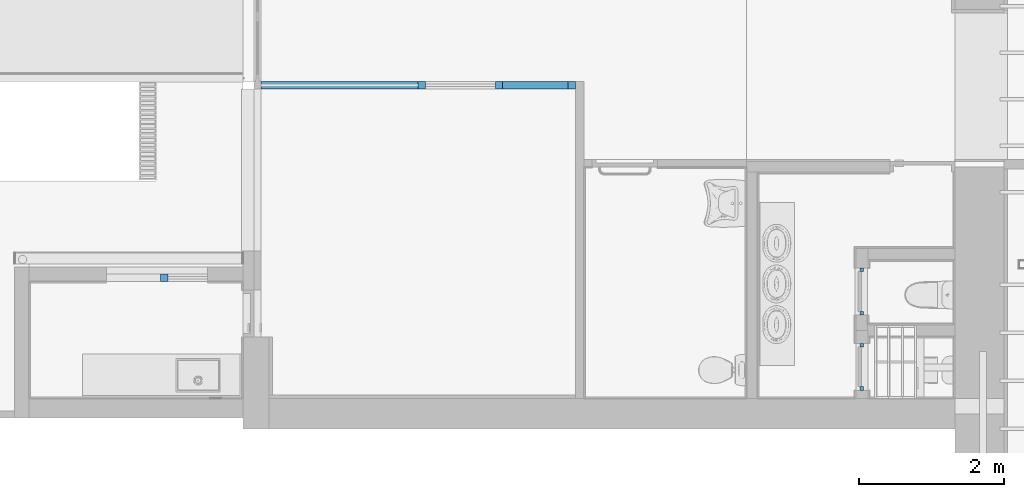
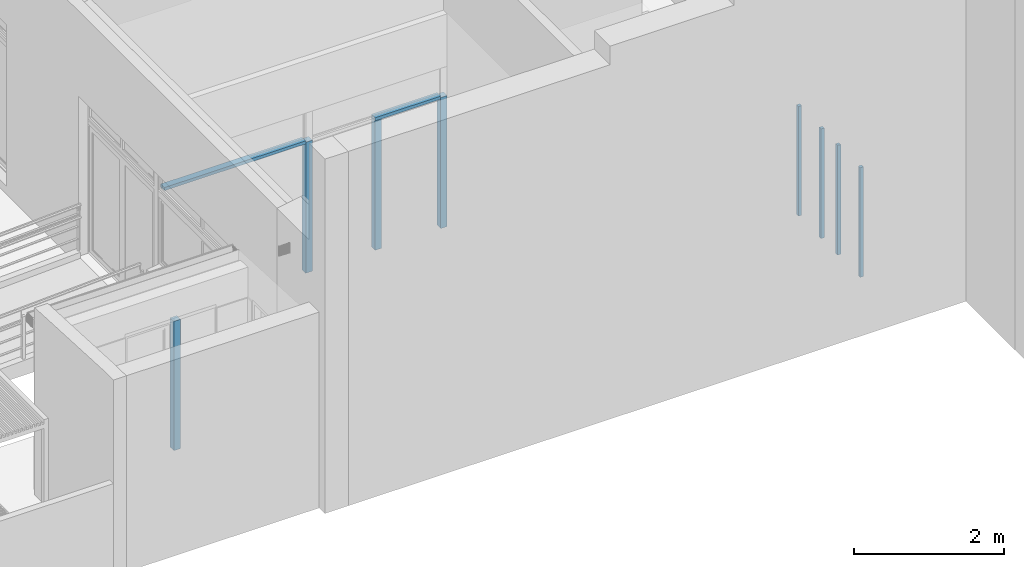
# One storey, part 15 of 75: 10 members, 4 elements without a shape of their own.
"""IFC2X3 building model written with IfcOpenShell, lengths in metres."""

from ifc_helpers import new_model, entity, si_unit, converted_unit, derived_unit, direction, frame, origin, origin_2d_with_axis, place, context, subcontext, project, spatial, rectangle, extrude, source, transform, mapped, material, type_object, type_shapes, element, aggregate, save


model = new_model("IFC2X3")

# Units and contexts
model_context = context("Model", 3, precision=1e-05, world=origin(), true_north=direction((6.12303176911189e-17, 1.0)))
body_context = subcontext(model_context, "Body", "Model", "MODEL_VIEW")
ifc_project = project(units=[si_unit("LENGTHUNIT", "METRE"), si_unit("AREAUNIT", "SQUARE_METRE"), si_unit("VOLUMEUNIT", "CUBIC_METRE"), converted_unit("PLANEANGLEUNIT", "DEGREE", entity("IfcRatioMeasure", 0.0174532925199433), si_unit("PLANEANGLEUNIT", "RADIAN"), dimensions=[0, 0, 0, 0, 0, 0, 0]), si_unit("MASSUNIT", "GRAM", prefix="KILO"), derived_unit("MASSDENSITYUNIT", [(si_unit("MASSUNIT", "GRAM", prefix="KILO"), 1), (si_unit("LENGTHUNIT", "METRE"), -3)]), derived_unit("MOMENTOFINERTIAUNIT", [(si_unit("LENGTHUNIT", "METRE"), 4)]), si_unit("TIMEUNIT", "SECOND"), si_unit("FREQUENCYUNIT", "HERTZ"), si_unit("THERMODYNAMICTEMPERATUREUNIT", "DEGREE_CELSIUS"), derived_unit("THERMALTRANSMITTANCEUNIT", [(si_unit("MASSUNIT", "GRAM", prefix="KILO"), 1), (si_unit("THERMODYNAMICTEMPERATUREUNIT", "KELVIN"), -1), (si_unit("TIMEUNIT", "SECOND"), -3)]), derived_unit("VOLUMETRICFLOWRATEUNIT", [(si_unit("LENGTHUNIT", "METRE"), 3), (si_unit("TIMEUNIT", "SECOND"), -1)]), si_unit("ELECTRICCURRENTUNIT", "AMPERE"), si_unit("ELECTRICVOLTAGEUNIT", "VOLT"), si_unit("POWERUNIT", "WATT"), si_unit("FORCEUNIT", "NEWTON", prefix="KILO"), si_unit("ILLUMINANCEUNIT", "LUX"), si_unit("LUMINOUSFLUXUNIT", "LUMEN"), si_unit("LUMINOUSINTENSITYUNIT", "CANDELA"), derived_unit("USERDEFINED", [(si_unit("MASSUNIT", "GRAM", prefix="KILO"), -1), (si_unit("LENGTHUNIT", "METRE"), -2), (si_unit("TIMEUNIT", "SECOND"), 3), (si_unit("LUMINOUSFLUXUNIT", "LUMEN"), 1)]), derived_unit("LINEARVELOCITYUNIT", [(si_unit("LENGTHUNIT", "METRE"), 1), (si_unit("TIMEUNIT", "SECOND"), -1)]), si_unit("PRESSUREUNIT", "PASCAL"), derived_unit("USERDEFINED", [(si_unit("LENGTHUNIT", "METRE"), -2), (si_unit("MASSUNIT", "GRAM", prefix="KILO"), 1), (si_unit("TIMEUNIT", "SECOND"), -2)]), derived_unit("LINEARFORCEUNIT", [(si_unit("MASSUNIT", "GRAM", prefix="KILO"), 1), (si_unit("LENGTHUNIT", "METRE"), 1), (si_unit("TIMEUNIT", "SECOND"), -2), (si_unit("LENGTHUNIT", "METRE"), -1)]), derived_unit("PLANARFORCEUNIT", [(si_unit("MASSUNIT", "GRAM", prefix="KILO"), 1), (si_unit("LENGTHUNIT", "METRE"), 1), (si_unit("TIMEUNIT", "SECOND"), -2), (si_unit("LENGTHUNIT", "METRE"), -2)])], contexts=[model_context])

# Site, building, storey
site_placement = place(None, origin())
site = spatial("IfcSite", under=ifc_project, at=site_placement, Name="Superficie", CompositionType="ELEMENT")
building_placement = place(site_placement, origin())
building = spatial("IfcBuilding", under=site, at=building_placement, Name="Telegestiones", CompositionType="ELEMENT")
storey_placement = place(building_placement, origin())
storey = spatial("IfcBuildingStorey", under=building, at=storey_placement, Name="Nivel 0_NPT", CompositionType="ELEMENT", Elevation=0.0)

# Curtain wall, member
curtain_wall_type_1 = type_object("IfcCurtainWallType", PredefinedType="NOTDEFINED")
curtain_wall_1_placement = place(storey_placement, origin())
curtain_wall_1 = element("IfcCurtainWall", 1, at=curtain_wall_1_placement, inside=storey, type_object=curtain_wall_type_1)
ifc_material = material(Name="Aluminio")
member_type_1 = type_object("IfcMemberType", Name="Montante rectangular:10x10", PredefinedType="MULLION", material=ifc_material)
shared_shape_1 = source(origin(), body_context, "Body", "SweptSolid", [
    extrude(rectangle(XDim=0.1, YDim=0.1, at=origin_2d_with_axis()), frame((0.05, 0.0, -2.1), z_axis=(0.0, 0.0, 1.0), x_axis=(0.0, -1.0, 0.0)), (0.0, 0.0, 1.0), 2.1),
])
type_shapes(member_type_1, [shared_shape_1])
member_1_placement = place(curtain_wall_1_placement, frame((-5.6251873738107, -2.41639277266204, -0.02), z_axis=(0.0, 0.0, -1.0), x_axis=(1.0, 0.0, 0.0)))
member_1 = element("IfcMember", 2, at=member_1_placement, type_object=member_type_1, Name="Montante rectangular:10x10", ObjectType="Montante rectangular:10x10", context=body_context, shape_type="MappedRepresentation", body=[
    mapped(shared_shape_1, transform((0.0, 0.0, 0.0), scale=1.0)),
])
aggregate(curtain_wall_1, [member_1])

# Curtain wall, members
curtain_wall_type_2 = type_object("IfcCurtainWallType", PredefinedType="NOTDEFINED")
curtain_wall_2_placement = place(storey_placement, origin())
curtain_wall_2 = element("IfcCurtainWall", 3, at=curtain_wall_2_placement, inside=storey, type_object=curtain_wall_type_2)
member_2_placement = place(curtain_wall_2_placement, frame((-0.998349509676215, 0.244063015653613, 0.0), z_axis=(0.0, 0.0, -1.0), x_axis=(1.0, 0.0, 0.0)))
member_2 = element("IfcMember", 4, at=member_2_placement, type_object=member_type_1, Name="Montante rectangular:10x10", ObjectType="Montante rectangular:10x10", context=body_context, shape_type="MappedRepresentation", body=[
    mapped(shared_shape_1, transform((0.0, 0.0, 0.0), scale=1.0)),
])
member_type_2 = type_object("IfcMemberType", Name="Montante rectangular:10x10", PredefinedType="MULLION", material=ifc_material)
shared_shape_2 = source(origin(), body_context, "Body", "SweptSolid", [
    extrude(rectangle(XDim=0.1, YDim=0.1, at=origin_2d_with_axis()), frame((-0.05, 0.0, -2.125), z_axis=(0.0, 0.0, 1.0), x_axis=(0.0, -1.0, 0.0)), (0.0, 0.0, 1.0), 2.125),
])
type_shapes(member_type_2, [shared_shape_2])
member_3_placement = place(curtain_wall_2_placement, frame((0.106652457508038, 0.24406301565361, 0.0), z_axis=(0.0, 0.0, -1.0), x_axis=(1.0, 0.0, 0.0)))
member_3 = element("IfcMember", 5, at=member_3_placement, type_object=member_type_2, Name="Montante rectangular:10x10", ObjectType="Montante rectangular:10x10", context=body_context, shape_type="MappedRepresentation", body=[
    mapped(shared_shape_2, transform((0.0, 0.0, 0.0), scale=1.0)),
])
member_type_3 = type_object("IfcMemberType", Name="Montante rectangular:5x10", PredefinedType="MULLION", material=ifc_material)
shared_shape_3 = source(origin(), body_context, "Body", "SweptSolid", [
    extrude(rectangle(XDim=0.1, YDim=0.05, at=origin_2d_with_axis()), frame((0.0, 0.0, -2.17091991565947), z_axis=(0.0, 0.0, 1.0), x_axis=(0.0, -1.0, 0.0)), (0.0, 0.0, 1.0), 2.17091991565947),
])
type_shapes(member_type_3, [shared_shape_3])
member_4_placement = place(curtain_wall_2_placement, frame((-2.06426745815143, 0.244063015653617, 2.125), z_axis=(1.0, 0.0, 0.0), x_axis=(0.0, 0.0, 1.0)))
member_4 = element("IfcMember", 6, at=member_4_placement, type_object=member_type_3, Name="Montante rectangular:5x10", ObjectType="Montante rectangular:5x10", context=body_context, shape_type="MappedRepresentation", body=[
    mapped(shared_shape_3, transform((0.0, 0.0, 0.0), scale=1.0)),
])
member_type_4 = type_object("IfcMemberType", Name="Montante rectangular:5x10", PredefinedType="MULLION", material=ifc_material)
shared_shape_4 = source(origin(), body_context, "Body", "SweptSolid", [
    extrude(rectangle(XDim=0.1, YDim=0.05, at=origin_2d_with_axis()), frame((0.0, 0.0, -1.00500196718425), z_axis=(0.0, 0.0, 1.0), x_axis=(0.0, -1.0, 0.0)), (0.0, 0.0, 1.0), 1.00500196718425),
])
type_shapes(member_type_4, [shared_shape_4])
member_5_placement = place(curtain_wall_2_placement, frame((0.00665245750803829, 0.24406301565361, 2.125), z_axis=(1.0, 0.0, 0.0), x_axis=(0.0, 0.0, 1.0)))
member_5 = element("IfcMember", 7, at=member_5_placement, type_object=member_type_4, Name="Montante rectangular:5x10", ObjectType="Montante rectangular:5x10", context=body_context, shape_type="MappedRepresentation", body=[
    mapped(shared_shape_4, transform((0.0, 0.0, 0.0), scale=1.0)),
])
member_type_5 = type_object("IfcMemberType", Name="Montante rectangular:10x10", PredefinedType="MULLION", material=ifc_material)
shared_shape_5 = source(origin(), body_context, "Body", "SweptSolid", [
    extrude(rectangle(XDim=0.1, YDim=0.1, at=origin_2d_with_axis()), frame((0.05, 0.0, -2.125), z_axis=(0.0, 0.0, 1.0), x_axis=(0.0, -1.0, 0.0)), (0.0, 0.0, 1.0), 2.125),
])
type_shapes(member_type_5, [shared_shape_5])
member_6_placement = place(curtain_wall_2_placement, frame((-2.06426745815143, 0.244063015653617, 0.0), z_axis=(0.0, 0.0, -1.0), x_axis=(1.0, 0.0, 0.0)))
member_6 = element("IfcMember", 8, at=member_6_placement, type_object=member_type_5, Name="Montante rectangular:10x10", ObjectType="Montante rectangular:10x10", context=body_context, shape_type="MappedRepresentation", body=[
    mapped(shared_shape_5, transform((0.0, 0.0, 0.0), scale=1.0)),
])
aggregate(curtain_wall_2, [member_2, member_3, member_4, member_5, member_6])

# Curtain wall, member
curtain_wall_type_3 = type_object("IfcCurtainWallType", PredefinedType="NOTDEFINED")
curtain_wall_3_placement = place(storey_placement, origin())
curtain_wall_3 = element("IfcCurtainWall", 9, at=curtain_wall_3_placement, inside=storey, type_object=curtain_wall_type_3)
member_type_6 = type_object("IfcMemberType", Name="Montante rectangular:5x5", PredefinedType="MULLION", material=ifc_material)
shared_shape_6 = source(origin(), body_context, "Body", "SweptSolid", [
    extrude(rectangle(XDim=0.05, YDim=0.05, at=origin_2d_with_axis()), frame((-0.025, 0.0, -1.78), z_axis=(0.0, 0.0, 1.0), x_axis=(0.0, -1.0, 0.0)), (0.0, 0.0, 1.0), 1.78),
])
type_shapes(member_type_6, [shared_shape_6])
member_7_placement = place(curtain_wall_3_placement, frame((4.06481262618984, -2.93139277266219, 2.1), z_axis=(0.0, 0.0, 1.0), x_axis=(0.0, -1.0, 0.0)))
member_7 = element("IfcMember", 10, at=member_7_placement, type_object=member_type_6, Name="Montante rectangular:5x5", ObjectType="Montante rectangular:5x5", context=body_context, shape_type="MappedRepresentation", body=[
    mapped(shared_shape_6, transform((0.0, 0.0, 0.0), scale=1.0)),
])

curtain_wall_4_placement = place(storey_placement, origin())
curtain_wall_4 = element("IfcCurtainWall", 11, at=curtain_wall_4_placement, inside=storey, type_object=curtain_wall_type_3)
member_8_placement = place(curtain_wall_4_placement, frame((4.06481262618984, -3.97136539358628, 2.1), z_axis=(0.0, 0.0, 1.0), x_axis=(0.0, -1.0, 0.0)))
member_8 = element("IfcMember", 12, at=member_8_placement, type_object=member_type_6, Name="Montante rectangular:5x5", ObjectType="Montante rectangular:5x5", context=body_context, shape_type="MappedRepresentation", body=[
    mapped(shared_shape_6, transform((0.0, 0.0, 0.0), scale=1.0)),
])

# Member
member_type_7 = type_object("IfcMemberType", Name="Montante rectangular:5x5", PredefinedType="MULLION", material=ifc_material)
shared_shape_7 = source(origin(), body_context, "Body", "SweptSolid", [
    extrude(rectangle(XDim=0.05, YDim=0.05, at=origin_2d_with_axis()), frame((-0.025, 0.0, -1.78), z_axis=(0.0, 0.0, 1.0), x_axis=(0.0, -1.0, 0.0)), (0.0, 0.0, 1.0), 1.78),
])
type_shapes(member_type_7, [shared_shape_7])
member_9_placement = place(curtain_wall_3_placement, frame((4.06481262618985, -2.28139277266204, 0.32), z_axis=(0.0, 0.0, -1.0), x_axis=(0.0, 1.0, 0.0)))
member_9 = element("IfcMember", 13, at=member_9_placement, type_object=member_type_7, Name="Montante rectangular:5x5", ObjectType="Montante rectangular:5x5", context=body_context, shape_type="MappedRepresentation", body=[
    mapped(shared_shape_7, transform((0.0, 0.0, 0.0), scale=1.0)),
])

aggregate(curtain_wall_3, [member_7, member_9])

member_10_placement = place(curtain_wall_4_placement, frame((4.06481262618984, -3.32139277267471, 0.32), z_axis=(0.0, 0.0, -1.0), x_axis=(0.0, 1.0, 0.0)))
member_10 = element("IfcMember", 14, at=member_10_placement, type_object=member_type_7, Name="Montante rectangular:5x5", ObjectType="Montante rectangular:5x5", context=body_context, shape_type="MappedRepresentation", body=[
    mapped(shared_shape_7, transform((0.0, 0.0, 0.0), scale=1.0)),
])

aggregate(curtain_wall_4, [member_8, member_10])

save(model, "model.ifc")
